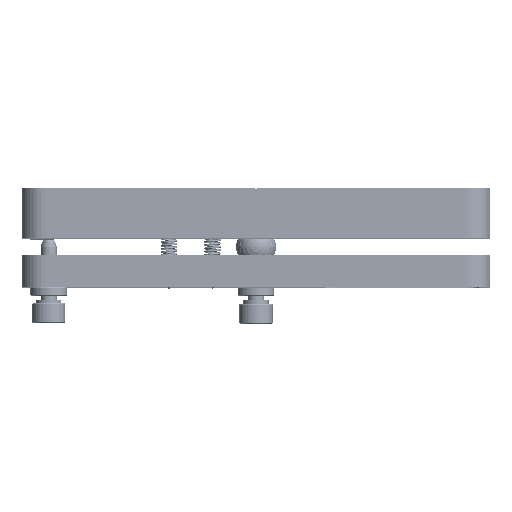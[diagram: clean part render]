
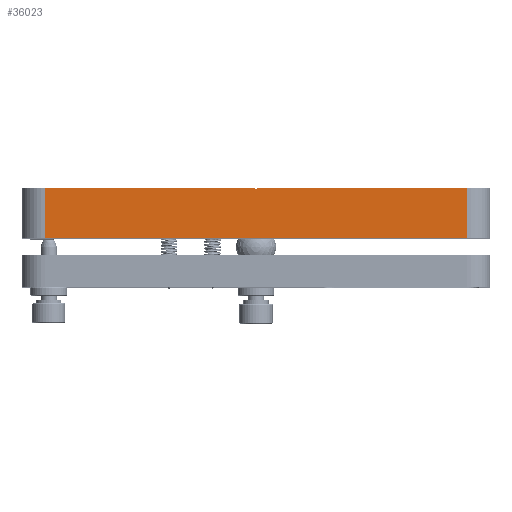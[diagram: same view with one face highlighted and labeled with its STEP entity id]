
A CAD part, top view. The second image highlights one B-rep face of the part: STEP entity #36023.
In plain terms, the highlighted planar face has unit normal (0, 0, 1).
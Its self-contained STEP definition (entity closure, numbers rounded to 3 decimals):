
#12528=DIRECTION('',(-1.,0.,0.));
#12529=VECTOR('',#12528,62.7);
#12530=CARTESIAN_POINT('',(-0.3,15.,70.));
#12531=LINE('',#12530,#12529);
#12558=DIRECTION('',(-1.,0.,0.));
#12559=VECTOR('',#12558,62.7);
#12560=CARTESIAN_POINT('',(63.,15.,70.));
#12561=LINE('',#12560,#12559);
#15200=DIRECTION('',(1.,0.,0.));
#15201=VECTOR('',#15200,0.6);
#15202=CARTESIAN_POINT('',(-0.3,14.7,70.));
#15203=LINE('',#15202,#15201);
#15204=DIRECTION('',(0.,-1.,0.));
#15205=VECTOR('',#15204,0.3);
#15206=CARTESIAN_POINT('',(0.3,15.,70.));
#15207=LINE('',#15206,#15205);
#15208=DIRECTION('',(0.,-1.,0.));
#15209=VECTOR('',#15208,15.);
#15210=CARTESIAN_POINT('',(63.,15.,70.));
#15211=LINE('',#15210,#15209);
#15212=DIRECTION('',(-1.,0.,0.));
#15213=VECTOR('',#15212,126.);
#15214=CARTESIAN_POINT('',(63.,0.,70.));
#15215=LINE('',#15214,#15213);
#15216=DIRECTION('',(0.,-1.,0.));
#15217=VECTOR('',#15216,15.);
#15218=CARTESIAN_POINT('',(-63.,15.,70.));
#15219=LINE('',#15218,#15217);
#15220=DIRECTION('',(0.,-1.,0.));
#15221=VECTOR('',#15220,0.3);
#15222=CARTESIAN_POINT('',(-0.3,15.,70.));
#15223=LINE('',#15222,#15221);
#15701=CARTESIAN_POINT('',(63.,0.,70.));
#15703=VERTEX_POINT('',#15701);
#15704=CARTESIAN_POINT('',(63.,15.,70.));
#15705=VERTEX_POINT('',#15704);
#15708=CARTESIAN_POINT('',(-63.,0.,70.));
#15710=VERTEX_POINT('',#15708);
#15714=CARTESIAN_POINT('',(-63.,15.,70.));
#15715=VERTEX_POINT('',#15714);
#16712=CARTESIAN_POINT('',(-0.3,15.,70.));
#16713=VERTEX_POINT('',#16712);
#16714=CARTESIAN_POINT('',(0.3,15.,70.));
#16716=VERTEX_POINT('',#16714);
#16736=CARTESIAN_POINT('',(-0.3,14.7,70.));
#16737=CARTESIAN_POINT('',(0.3,14.7,70.));
#16738=VERTEX_POINT('',#16736);
#16739=VERTEX_POINT('',#16737);
#36005=CARTESIAN_POINT('',(-70.,0.,70.));
#36006=DIRECTION('',(0.,0.,1.));
#36007=DIRECTION('',(1.,0.,0.));
#36008=AXIS2_PLACEMENT_3D('',#36005,#36006,#36007);
#36009=PLANE('',#36008);
#36010=ORIENTED_EDGE('',*,*,#24016,.T.);
#36012=ORIENTED_EDGE('',*,*,#36011,.F.);
#36013=ORIENTED_EDGE('',*,*,#32268,.F.);
#36015=ORIENTED_EDGE('',*,*,#36014,.T.);
#36016=ORIENTED_EDGE('',*,*,#16773,.T.);
#36018=ORIENTED_EDGE('',*,*,#36017,.F.);
#36019=ORIENTED_EDGE('',*,*,#32241,.F.);
#36020=ORIENTED_EDGE('',*,*,#36000,.T.);
#36021=EDGE_LOOP('',(#36010,#36012,#36013,#36015,#36016,#36018,#36019,#36020));
#36022=FACE_OUTER_BOUND('',#36021,.F.);
#36023=ADVANCED_FACE('',(#36022),#36009,.T.);
#16773=EDGE_CURVE('',#15703,#15710,#15215,.T.);
#24016=EDGE_CURVE('',#16738,#16739,#15203,.T.);
#32241=EDGE_CURVE('',#16713,#15715,#12531,.T.);
#32268=EDGE_CURVE('',#15705,#16716,#12561,.T.);
#36000=EDGE_CURVE('',#16713,#16738,#15223,.T.);
#36011=EDGE_CURVE('',#16716,#16739,#15207,.T.);
#36014=EDGE_CURVE('',#15705,#15703,#15211,.T.);
#36017=EDGE_CURVE('',#15715,#15710,#15219,.T.);
